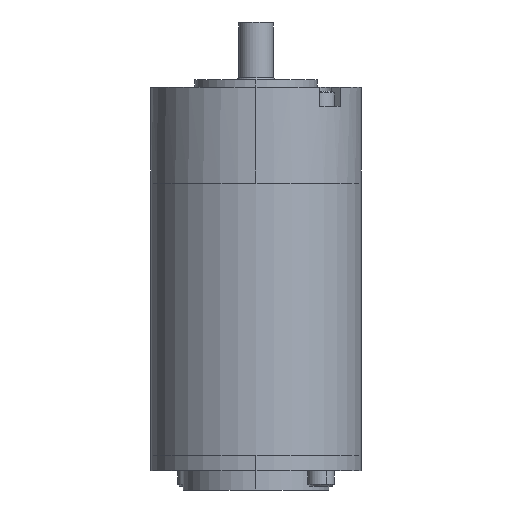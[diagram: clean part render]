
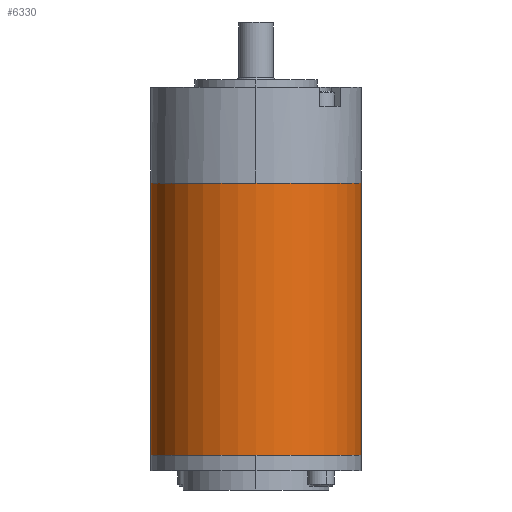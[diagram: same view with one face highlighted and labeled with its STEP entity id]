
A CAD part, front view. The second image highlights one B-rep face of the part: STEP entity #6330.
In plain terms, the highlighted cylindrical face has radius 27.5 mm (diameter 55 mm), a partial arc.
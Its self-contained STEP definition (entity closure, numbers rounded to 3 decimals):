
#193 = EDGE_CURVE ( 'NONE', #3213, #3802, #1554, .T. ) ;
#854 = ORIENTED_EDGE ( 'NONE', *, *, #2364, .F. ) ;
#1264 = CARTESIAN_POINT ( 'NONE',  ( -27.5, 0., 71. ) ) ;
#1554 = CIRCLE ( 'NONE', #1619, 27.5 ) ;
#1619 = AXIS2_PLACEMENT_3D ( 'NONE', #3308, #6575, #6427 ) ;
#1623 = LINE ( 'NONE', #4662, #6401 ) ;
#1702 = CARTESIAN_POINT ( 'NONE',  ( -27.5, 0., 0. ) ) ;
#2086 = AXIS2_PLACEMENT_3D ( 'NONE', #4763, #5553, #5624 ) ;
#2364 = EDGE_CURVE ( 'NONE', #3802, #2400, #1623, .T. ) ;
#2400 = VERTEX_POINT ( 'NONE', #6476 ) ;
#2830 = CARTESIAN_POINT ( 'NONE',  ( 27.5, 0., 71. ) ) ;
#2860 = CARTESIAN_POINT ( 'NONE',  ( 0., 0., 0. ) ) ;
#3089 = AXIS2_PLACEMENT_3D ( 'NONE', #2860, #5944, #4805 ) ;
#3213 = VERTEX_POINT ( 'NONE', #1264 ) ;
#3308 = CARTESIAN_POINT ( 'NONE',  ( 0., 0., 71. ) ) ;
#3513 = ORIENTED_EDGE ( 'NONE', *, *, #5457, .T. ) ;
#3802 = VERTEX_POINT ( 'NONE', #2830 ) ;
#4662 = CARTESIAN_POINT ( 'NONE',  ( 27.5, 0., 79. ) ) ;
#4763 = CARTESIAN_POINT ( 'NONE',  ( 0., 0., 79. ) ) ;
#4791 = EDGE_LOOP ( 'NONE', ( #854, #5352, #6509, #3513 ) ) ;
#4805 = DIRECTION ( 'NONE',  ( 1., 0., 0. ) ) ;
#4896 = VECTOR ( 'NONE', #5745, 1000. ) ;
#4912 = EDGE_CURVE ( 'NONE', #3213, #5239, #6659, .T. ) ;
#5076 = FACE_OUTER_BOUND ( 'NONE', #4791, .T. ) ;
#5228 = CARTESIAN_POINT ( 'NONE',  ( -27.5, 0., 79. ) ) ;
#5239 = VERTEX_POINT ( 'NONE', #1702 ) ;
#5352 = ORIENTED_EDGE ( 'NONE', *, *, #193, .F. ) ;
#5457 = EDGE_CURVE ( 'NONE', #5239, #2400, #5979, .T. ) ;
#5553 = DIRECTION ( 'NONE',  ( 0., 0., -1. ) ) ;
#5606 = CYLINDRICAL_SURFACE ( 'NONE', #2086, 27.5 ) ;
#5624 = DIRECTION ( 'NONE',  ( -1., 0., 0. ) ) ;
#5745 = DIRECTION ( 'NONE',  ( 0., 0., -1. ) ) ;
#5944 = DIRECTION ( 'NONE',  ( 0., 0., 1. ) ) ;
#5979 = CIRCLE ( 'NONE', #3089, 27.5 ) ;
#6330 = ADVANCED_FACE ( 'NONE', ( #5076 ), #5606, .T. ) ;
#6401 = VECTOR ( 'NONE', #6424, 1000. ) ;
#6424 = DIRECTION ( 'NONE',  ( 0., 0., -1. ) ) ;
#6427 = DIRECTION ( 'NONE',  ( 1., 0., 0. ) ) ;
#6476 = CARTESIAN_POINT ( 'NONE',  ( 27.5, 0., 0. ) ) ;
#6509 = ORIENTED_EDGE ( 'NONE', *, *, #4912, .T. ) ;
#6575 = DIRECTION ( 'NONE',  ( 0., 0., 1. ) ) ;
#6659 = LINE ( 'NONE', #5228, #4896 ) ;
